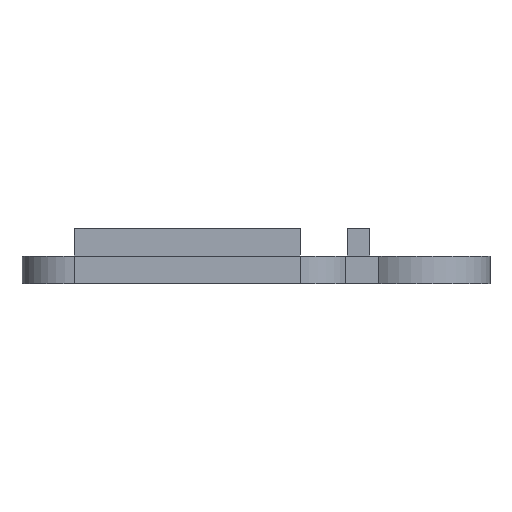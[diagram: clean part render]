
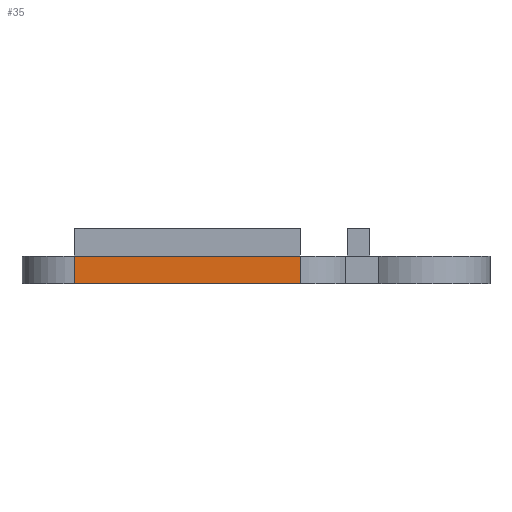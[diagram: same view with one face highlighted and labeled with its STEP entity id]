
A CAD part, left-side view. The second image highlights one B-rep face of the part: STEP entity #35.
In plain terms, the highlighted planar face has unit normal (-1, 0, 0).
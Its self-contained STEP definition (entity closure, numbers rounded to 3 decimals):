
#35 = ADVANCED_FACE('',(#36),#50,.F.);
#36 = FACE_BOUND('',#37,.F.);
#37 = EDGE_LOOP('',(#38,#73,#101,#129));
#38 = ORIENTED_EDGE('',*,*,#39,.F.);
#39 = EDGE_CURVE('',#40,#42,#44,.T.);
#40 = VERTEX_POINT('',#41);
#41 = CARTESIAN_POINT('',(-36.5,19.5,36.6));
#42 = VERTEX_POINT('',#43);
#43 = CARTESIAN_POINT('',(-36.5,32.5,36.6));
#44 = SURFACE_CURVE('',#45,(#49,#61),.PCURVE_S1.);
#45 = LINE('',#46,#47);
#46 = CARTESIAN_POINT('',(-36.5,16.5,36.6));
#47 = VECTOR('',#48,1.);
#48 = DIRECTION('',(0.,1.,0.));
#49 = PCURVE('',#50,#55);
#50 = PLANE('',#51);
#51 = AXIS2_PLACEMENT_3D('',#52,#53,#54);
#52 = CARTESIAN_POINT('',(-36.5,16.5,35.));
#53 = DIRECTION('',(1.,0.,0.));
#54 = DIRECTION('',(0.,0.,1.));
#55 = DEFINITIONAL_REPRESENTATION('',(#56),#60);
#56 = LINE('',#57,#58);
#57 = CARTESIAN_POINT('',(1.6,0.));
#58 = VECTOR('',#59,1.);
#59 = DIRECTION('',(0.,-1.));
#60 = ( GEOMETRIC_REPRESENTATION_CONTEXT(2) 
PARAMETRIC_REPRESENTATION_CONTEXT() REPRESENTATION_CONTEXT('2D SPACE',''
  ) );
#61 = PCURVE('',#62,#67);
#62 = PLANE('',#63);
#63 = AXIS2_PLACEMENT_3D('',#64,#65,#66);
#64 = CARTESIAN_POINT('',(-36.5,16.5,36.6));
#65 = DIRECTION('',(0.,0.,1.));
#66 = DIRECTION('',(1.,0.,0.));
#67 = DEFINITIONAL_REPRESENTATION('',(#68),#72);
#68 = LINE('',#69,#70);
#69 = CARTESIAN_POINT('',(0.,0.));
#70 = VECTOR('',#71,1.);
#71 = DIRECTION('',(0.,1.));
#72 = ( GEOMETRIC_REPRESENTATION_CONTEXT(2) 
PARAMETRIC_REPRESENTATION_CONTEXT() REPRESENTATION_CONTEXT('2D SPACE',''
  ) );
#73 = ORIENTED_EDGE('',*,*,#74,.F.);
#74 = EDGE_CURVE('',#75,#40,#77,.T.);
#75 = VERTEX_POINT('',#76);
#76 = CARTESIAN_POINT('',(-36.5,19.5,35.));
#77 = SURFACE_CURVE('',#78,(#82,#89),.PCURVE_S1.);
#78 = LINE('',#79,#80);
#79 = CARTESIAN_POINT('',(-36.5,19.5,35.));
#80 = VECTOR('',#81,1.);
#81 = DIRECTION('',(0.,0.,1.));
#82 = PCURVE('',#50,#83);
#83 = DEFINITIONAL_REPRESENTATION('',(#84),#88);
#84 = LINE('',#85,#86);
#85 = CARTESIAN_POINT('',(0.,-3.));
#86 = VECTOR('',#87,1.);
#87 = DIRECTION('',(1.,0.));
#88 = ( GEOMETRIC_REPRESENTATION_CONTEXT(2) 
PARAMETRIC_REPRESENTATION_CONTEXT() REPRESENTATION_CONTEXT('2D SPACE',''
  ) );
#89 = PCURVE('',#90,#95);
#90 = CYLINDRICAL_SURFACE('',#91,3.);
#91 = AXIS2_PLACEMENT_3D('',#92,#93,#94);
#92 = CARTESIAN_POINT('',(-33.5,19.5,35.));
#93 = DIRECTION('',(0.,0.,1.));
#94 = DIRECTION('',(-1.,-0.,0.));
#95 = DEFINITIONAL_REPRESENTATION('',(#96),#100);
#96 = LINE('',#97,#98);
#97 = CARTESIAN_POINT('',(0.,0.));
#98 = VECTOR('',#99,1.);
#99 = DIRECTION('',(0.,1.));
#100 = ( GEOMETRIC_REPRESENTATION_CONTEXT(2) 
PARAMETRIC_REPRESENTATION_CONTEXT() REPRESENTATION_CONTEXT('2D SPACE',''
  ) );
#101 = ORIENTED_EDGE('',*,*,#102,.T.);
#102 = EDGE_CURVE('',#75,#103,#105,.T.);
#103 = VERTEX_POINT('',#104);
#104 = CARTESIAN_POINT('',(-36.5,32.5,35.));
#105 = SURFACE_CURVE('',#106,(#110,#117),.PCURVE_S1.);
#106 = LINE('',#107,#108);
#107 = CARTESIAN_POINT('',(-36.5,16.5,35.));
#108 = VECTOR('',#109,1.);
#109 = DIRECTION('',(0.,1.,0.));
#110 = PCURVE('',#50,#111);
#111 = DEFINITIONAL_REPRESENTATION('',(#112),#116);
#112 = LINE('',#113,#114);
#113 = CARTESIAN_POINT('',(0.,0.));
#114 = VECTOR('',#115,1.);
#115 = DIRECTION('',(0.,-1.));
#116 = ( GEOMETRIC_REPRESENTATION_CONTEXT(2) 
PARAMETRIC_REPRESENTATION_CONTEXT() REPRESENTATION_CONTEXT('2D SPACE',''
  ) );
#117 = PCURVE('',#118,#123);
#118 = PLANE('',#119);
#119 = AXIS2_PLACEMENT_3D('',#120,#121,#122);
#120 = CARTESIAN_POINT('',(-36.5,16.5,35.));
#121 = DIRECTION('',(0.,0.,1.));
#122 = DIRECTION('',(1.,0.,0.));
#123 = DEFINITIONAL_REPRESENTATION('',(#124),#128);
#124 = LINE('',#125,#126);
#125 = CARTESIAN_POINT('',(0.,0.));
#126 = VECTOR('',#127,1.);
#127 = DIRECTION('',(0.,1.));
#128 = ( GEOMETRIC_REPRESENTATION_CONTEXT(2) 
PARAMETRIC_REPRESENTATION_CONTEXT() REPRESENTATION_CONTEXT('2D SPACE',''
  ) );
#129 = ORIENTED_EDGE('',*,*,#130,.T.);
#130 = EDGE_CURVE('',#103,#42,#131,.T.);
#131 = SURFACE_CURVE('',#132,(#136,#143),.PCURVE_S1.);
#132 = LINE('',#133,#134);
#133 = CARTESIAN_POINT('',(-36.5,32.5,35.));
#134 = VECTOR('',#135,1.);
#135 = DIRECTION('',(0.,0.,1.));
#136 = PCURVE('',#50,#137);
#137 = DEFINITIONAL_REPRESENTATION('',(#138),#142);
#138 = LINE('',#139,#140);
#139 = CARTESIAN_POINT('',(0.,-16.));
#140 = VECTOR('',#141,1.);
#141 = DIRECTION('',(1.,0.));
#142 = ( GEOMETRIC_REPRESENTATION_CONTEXT(2) 
PARAMETRIC_REPRESENTATION_CONTEXT() REPRESENTATION_CONTEXT('2D SPACE',''
  ) );
#143 = PCURVE('',#144,#149);
#144 = CYLINDRICAL_SURFACE('',#145,3.);
#145 = AXIS2_PLACEMENT_3D('',#146,#147,#148);
#146 = CARTESIAN_POINT('',(-33.5,32.5,35.));
#147 = DIRECTION('',(0.,0.,1.));
#148 = DIRECTION('',(-1.,-0.,0.));
#149 = DEFINITIONAL_REPRESENTATION('',(#150),#154);
#150 = LINE('',#151,#152);
#151 = CARTESIAN_POINT('',(-0.,0.));
#152 = VECTOR('',#153,1.);
#153 = DIRECTION('',(-0.,1.));
#154 = ( GEOMETRIC_REPRESENTATION_CONTEXT(2) 
PARAMETRIC_REPRESENTATION_CONTEXT() REPRESENTATION_CONTEXT('2D SPACE',''
  ) );
